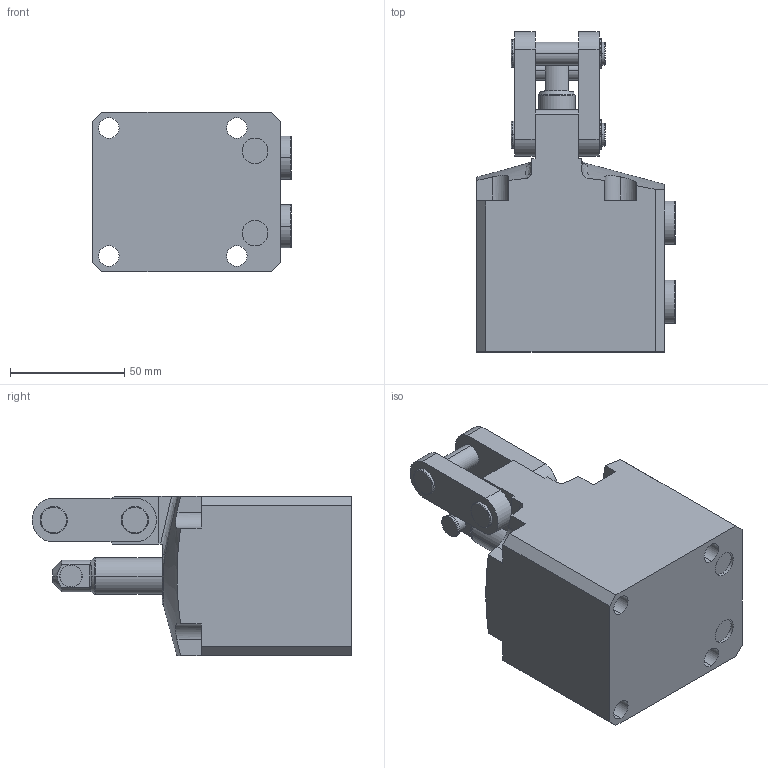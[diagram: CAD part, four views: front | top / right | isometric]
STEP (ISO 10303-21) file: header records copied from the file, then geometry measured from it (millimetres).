
FILE_DESCRIPTION(/* description */ (''),/* implementation_level */ '2;1');
FILE_NAME(/* name */ 'BPC10-L.stp',/* time_stamp */ '2025-01-05T10:00:57+08:00',/* author */ (''),/* organization */ (''),/* preprocessor_version */ 'ST-DEVELOPER v16.7',/* originating_system */ 'SIEMENS PLM Software NX 12.0',/* authorisation */ '');
FILE_SCHEMA (('AUTOMOTIVE_DESIGN { 1 0 10303 214 3 1 1 1 }'));
Length unit declared in the file: millimetre
Products named in the file (5): BPC10-L-02; BPC10-L-03; BPC10-L-04; BPC10-L-01; BPC10-L_stp
Assembly tree (5 placements, depth 2):
  BPC10-L_stp
    BPC10-L-01
    BPC10-L-04  x2
    BPC10-L-03
    BPC10-L-02
Bounding box: 86.8 x 140 x 70 mm (x, y, z)
Volume: 456724.6 mm3; surface area: 59999.6 mm2
Topology: 5 solids, 5 shells, 267 faces, 652 edges, 419 vertices
Faces by surface type: plane 112, cylinder 111, torus 22, cone 18, bspline 4
Entity records: 7765 total; most frequent: CARTESIAN_POINT 1665, DIRECTION 1313, ORIENTED_EDGE 1212, EDGE_CURVE 606, AXIS2_PLACEMENT_3D 509, VERTEX_POINT 391, LINE 295, VECTOR 295
